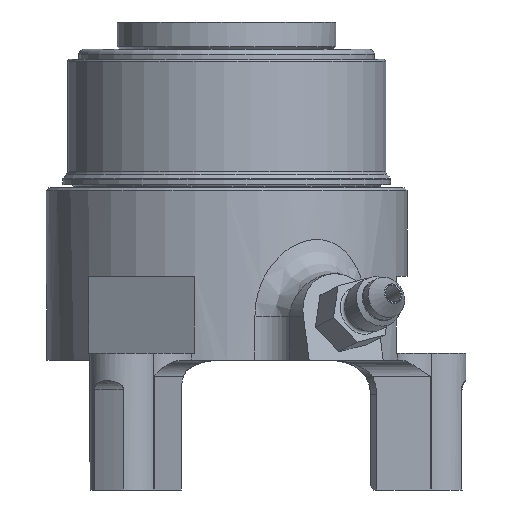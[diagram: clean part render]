
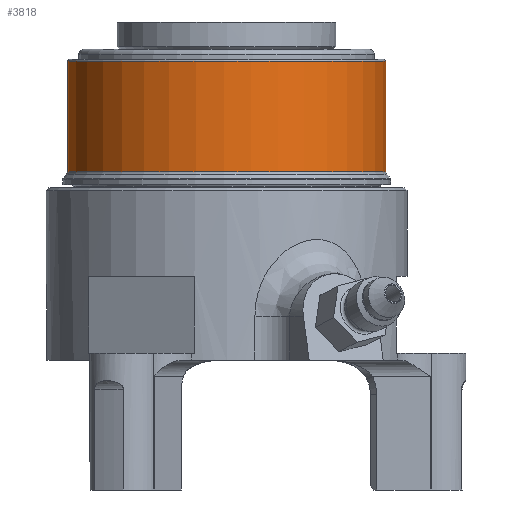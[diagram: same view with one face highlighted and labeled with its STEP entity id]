
A CAD part, left-side view. The second image highlights one B-rep face of the part: STEP entity #3818.
In plain terms, the highlighted cylindrical face has radius 29.591 mm (diameter 59.182 mm), a full revolution.
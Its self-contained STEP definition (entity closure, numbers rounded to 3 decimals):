
#113=CYLINDRICAL_SURFACE('',#4103,29.591);
#1023=ORIENTED_EDGE('',*,*,#1458,.F.);
#1024=ORIENTED_EDGE('',*,*,#1460,.T.);
#1458=EDGE_CURVE('',#1730,#1730,#1915,.T.);
#1460=EDGE_CURVE('',#1732,#1732,#1917,.T.);
#1730=VERTEX_POINT('',#6448);
#1732=VERTEX_POINT('',#6453);
#1915=CIRCLE('',#4084,29.591);
#1917=CIRCLE('',#4087,29.591);
#2122=EDGE_LOOP('',(#1023));
#2123=EDGE_LOOP('',(#1024));
#2386=FACE_BOUND('',#2122,.T.);
#2387=FACE_BOUND('',#2123,.T.);
#3818=ADVANCED_FACE('',(#2386,#2387),#113,.T.);
#4084=AXIS2_PLACEMENT_3D('',#6447,#4707,#4708);
#4087=AXIS2_PLACEMENT_3D('',#6452,#4713,#4714);
#4103=AXIS2_PLACEMENT_3D('',#6476,#4745,#4746);
#4707=DIRECTION('',(0.,0.,-1.));
#4708=DIRECTION('',(-0.933,0.359,0.));
#4713=DIRECTION('',(0.,0.,-1.));
#4714=DIRECTION('',(-0.933,0.359,0.));
#4745=DIRECTION('',(0.,0.,-1.));
#4746=DIRECTION('',(-0.933,0.359,0.));
#6447=CARTESIAN_POINT('',(0.,0.,59.175));
#6448=CARTESIAN_POINT('',(-27.614,10.634,59.175));
#6452=CARTESIAN_POINT('',(0.,0.,79.629));
#6453=CARTESIAN_POINT('',(-27.614,10.634,79.629));
#6476=CARTESIAN_POINT('',(0.,0.,-26.099));
